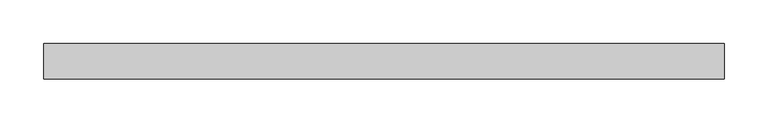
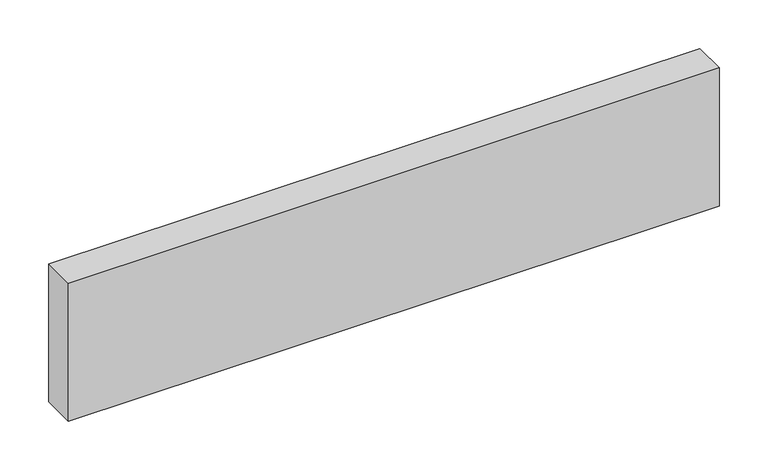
"""IFC4 building model written with IfcOpenShell, lengths in millimetres: plate geometry, Panneau système vide : Epaiss. 4cm."""

from ifc_helpers import new_model, si_unit, origin, origin_with_axes, place, context, project, spatial, polyline, outline, extrude, source, transform, mapped, element, save


def plate_83f92fc9(model_context):
    return source(origin(), model_context, "Body", "SweptSolid", [
        extrude(outline(polyline([(386.6244143, -20.0), (-386.6244143, -20.0), (-386.6244143, 20.0), (386.6244143, 20.0), (386.6244143, -20.0)])), origin_with_axes(), (0.0, 0.0, 1.0), 173.3333333),
    ])


if __name__ == "__main__":
    model = new_model("IFC4")
    model_context = context("Model", 3, world=origin())
    ifc_project = project(units=[si_unit("LENGTHUNIT", "METRE", prefix="MILLI")], contexts=[model_context])
    site = spatial("IfcSite", under=ifc_project)
    building = spatial("IfcBuilding", under=site)
    placement = place(None, origin())
    plate_shape = plate_83f92fc9(model_context)
    element("IfcPlate", 1, ObjectType="Panneau système vide : Epaiss. 4cm", at=placement, inside=building, context=model_context, shape_type="MappedRepresentation", body=[
        mapped(plate_shape, transform((0.0, 0.0, 0.0), x_axis=(1.0, 0.0, 0.0), y_axis=(0.0, 1.0, 0.0), z_axis=(0.0, 0.0, 1.0))),
    ])
    save(model, "model.ifc")
